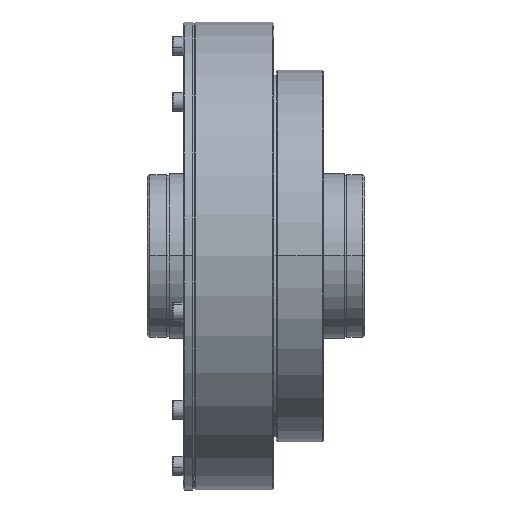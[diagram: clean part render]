
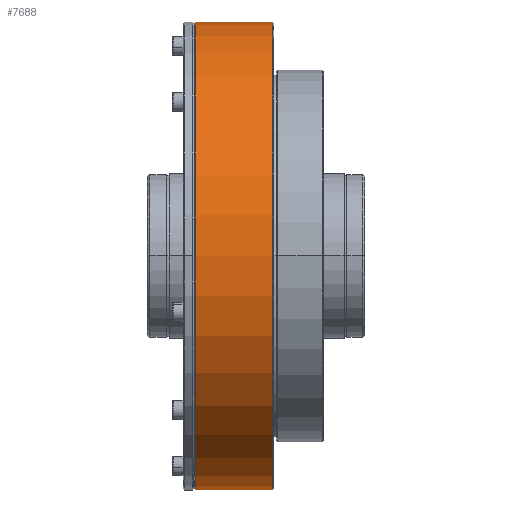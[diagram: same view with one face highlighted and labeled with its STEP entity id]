
A CAD part, top view. The second image highlights one B-rep face of the part: STEP entity #7688.
In plain terms, the highlighted cylindrical face has radius 85 mm (diameter 170 mm), a partial arc.
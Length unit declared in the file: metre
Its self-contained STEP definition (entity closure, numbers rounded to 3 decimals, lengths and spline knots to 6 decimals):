
#203 = CARTESIAN_POINT ( 'NONE',  ( 0.0175, 0., 0. ) ) ;
#294 = AXIS2_PLACEMENT_3D ( 'NONE', #8947, #1581, #23177 ) ;
#724 = CARTESIAN_POINT ( 'NONE',  ( 0.0455, -0.085, 0. ) ) ;
#1581 = DIRECTION ( 'NONE',  ( 1., 0., 0. ) ) ;
#4217 = CIRCLE ( 'NONE', #14967, 0.085 ) ;
#4279 = FACE_OUTER_BOUND ( 'NONE', #14137, .T. ) ;
#5334 = ORIENTED_EDGE ( 'NONE', *, *, #15793, .T. ) ;
#5610 = LINE ( 'NONE', #8316, #17137 ) ;
#7688 = ADVANCED_FACE ( 'NONE', ( #4279 ), #18538, .T. ) ;
#8316 = CARTESIAN_POINT ( 'NONE',  ( 0.068466, -0.085, 0. ) ) ;
#8947 = CARTESIAN_POINT ( 'NONE',  ( 0.068466, 0., 0. ) ) ;
#9278 = EDGE_CURVE ( 'NONE', #29156, #28328, #13103, .T. ) ;
#11206 = CARTESIAN_POINT ( 'NONE',  ( 0.0455, 0.085, 0. ) ) ;
#11748 = EDGE_CURVE ( 'NONE', #29156, #17919, #26502, .T. ) ;
#13103 = LINE ( 'NONE', #30815, #16132 ) ;
#13833 = CARTESIAN_POINT ( 'NONE',  ( 0.0455, 0., 0. ) ) ;
#14137 = EDGE_LOOP ( 'NONE', ( #22022, #5334, #19404, #31081 ) ) ;
#14967 = AXIS2_PLACEMENT_3D ( 'NONE', #13833, #23586, #21213 ) ;
#15360 = DIRECTION ( 'NONE',  ( 1., 0., 0. ) ) ;
#15552 = DIRECTION ( 'NONE',  ( 1., 0., 0. ) ) ;
#15793 = EDGE_CURVE ( 'NONE', #17919, #21866, #5610, .T. ) ;
#15815 = DIRECTION ( 'NONE',  ( 1., 0., 0. ) ) ;
#16132 = VECTOR ( 'NONE', #15815, 1. ) ;
#16823 = AXIS2_PLACEMENT_3D ( 'NONE', #203, #15552, #27074 ) ;
#17137 = VECTOR ( 'NONE', #15360, 1. ) ;
#17534 = CARTESIAN_POINT ( 'NONE',  ( 0.0175, -0.085, 0. ) ) ;
#17919 = VERTEX_POINT ( 'NONE', #17534 ) ;
#18538 = CYLINDRICAL_SURFACE ( 'NONE', #294, 0.085 ) ;
#19404 = ORIENTED_EDGE ( 'NONE', *, *, #27409, .T. ) ;
#21213 = DIRECTION ( 'NONE',  ( 0., 1., 0. ) ) ;
#21866 = VERTEX_POINT ( 'NONE', #724 ) ;
#22022 = ORIENTED_EDGE ( 'NONE', *, *, #11748, .T. ) ;
#23045 = CARTESIAN_POINT ( 'NONE',  ( 0.0175, 0.085, 0. ) ) ;
#23177 = DIRECTION ( 'NONE',  ( 0., 1., 0. ) ) ;
#23586 = DIRECTION ( 'NONE',  ( -1., 0., 0. ) ) ;
#26502 = CIRCLE ( 'NONE', #16823, 0.085 ) ;
#27074 = DIRECTION ( 'NONE',  ( 0., 1., 0. ) ) ;
#27409 = EDGE_CURVE ( 'NONE', #21866, #28328, #4217, .T. ) ;
#28328 = VERTEX_POINT ( 'NONE', #11206 ) ;
#29156 = VERTEX_POINT ( 'NONE', #23045 ) ;
#30815 = CARTESIAN_POINT ( 'NONE',  ( 0.068466, 0.085, 0. ) ) ;
#31081 = ORIENTED_EDGE ( 'NONE', *, *, #9278, .F. ) ;
